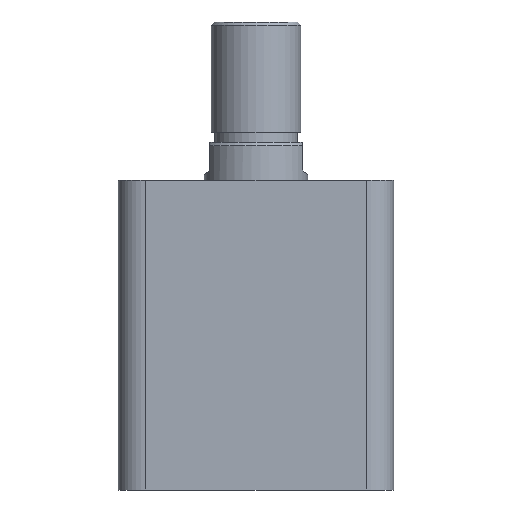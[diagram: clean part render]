
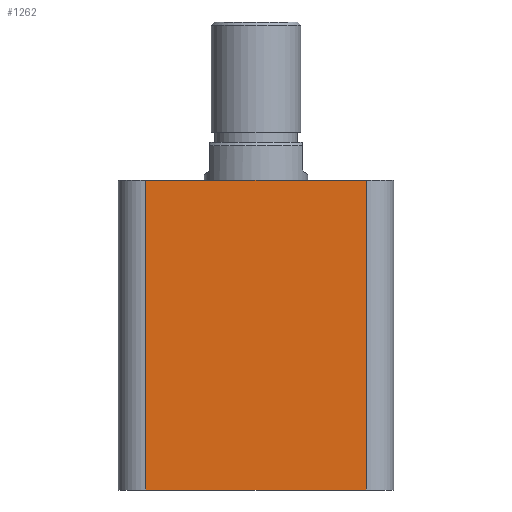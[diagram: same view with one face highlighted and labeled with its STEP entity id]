
A CAD part, front view. The second image highlights one B-rep face of the part: STEP entity #1262.
In plain terms, the highlighted planar face has unit normal (0, -1, 0).
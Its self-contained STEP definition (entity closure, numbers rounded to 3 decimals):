
#111 = DIRECTION ( 'NONE',  ( 0., 0., 1. ) ) ;
#112 = DIRECTION ( 'NONE',  ( 0., 1., 0. ) ) ;
#115 = PLANE ( 'NONE',  #1356 ) ;
#118 = CARTESIAN_POINT ( 'NONE',  ( -40., -40., 90. ) ) ;
#201 = CARTESIAN_POINT ( 'NONE',  ( -32., -40., 0. ) ) ;
#202 = CARTESIAN_POINT ( 'NONE',  ( 32., -40., 90. ) ) ;
#203 = CARTESIAN_POINT ( 'NONE',  ( 32., -40., 0. ) ) ;
#263 = CARTESIAN_POINT ( 'NONE',  ( -32., -40., 90. ) ) ;
#354 = EDGE_CURVE ( 'NONE', #845, #906, #1523, .T. ) ;
#355 = EDGE_CURVE ( 'NONE', #845, #907, #1521, .T. ) ;
#356 = EDGE_CURVE ( 'NONE', #907, #905, #569, .T. ) ;
#357 = EDGE_CURVE ( 'NONE', #905, #906, #570, .T. ) ;
#521 = FACE_OUTER_BOUND ( 'NONE', #1679, .T. ) ;
#566 = VECTOR ( 'NONE', #2111, 1000. ) ;
#568 = VECTOR ( 'NONE', #2120, 1000. ) ;
#569 = LINE ( 'NONE', #2055, #568 ) ;
#570 = LINE ( 'NONE', #2116, #566 ) ;
#625 = ORIENTED_EDGE ( 'NONE', *, *, #354, .F. ) ;
#626 = ORIENTED_EDGE ( 'NONE', *, *, #355, .T. ) ;
#627 = ORIENTED_EDGE ( 'NONE', *, *, #356, .T. ) ;
#628 = ORIENTED_EDGE ( 'NONE', *, *, #357, .T. ) ;
#845 = VERTEX_POINT ( 'NONE', #263 ) ;
#905 = VERTEX_POINT ( 'NONE', #203 ) ;
#906 = VERTEX_POINT ( 'NONE', #202 ) ;
#907 = VERTEX_POINT ( 'NONE', #201 ) ;
#1262 = ADVANCED_FACE ( 'NONE', ( #521 ), #115, .F. ) ;
#1356 = AXIS2_PLACEMENT_3D ( 'NONE', #118, #112, #111 ) ;
#1519 = VECTOR ( 'NONE', #2121, 1000. ) ;
#1520 = VECTOR ( 'NONE', #2123, 1000. ) ;
#1521 = LINE ( 'NONE', #2122, #1519 ) ;
#1523 = LINE ( 'NONE', #2124, #1520 ) ;
#1679 = EDGE_LOOP ( 'NONE', ( #625, #626, #627, #628 ) ) ;
#2055 = CARTESIAN_POINT ( 'NONE',  ( -40., -40., 0. ) ) ;
#2111 = DIRECTION ( 'NONE',  ( 0., 0., 1. ) ) ;
#2116 = CARTESIAN_POINT ( 'NONE',  ( 32., -40., 90. ) ) ;
#2120 = DIRECTION ( 'NONE',  ( 1., 0., 0. ) ) ;
#2121 = DIRECTION ( 'NONE',  ( 0., 0., -1. ) ) ;
#2122 = CARTESIAN_POINT ( 'NONE',  ( -32., -40., 90. ) ) ;
#2123 = DIRECTION ( 'NONE',  ( 1., 0., 0. ) ) ;
#2124 = CARTESIAN_POINT ( 'NONE',  ( -40., -40., 90. ) ) ;
